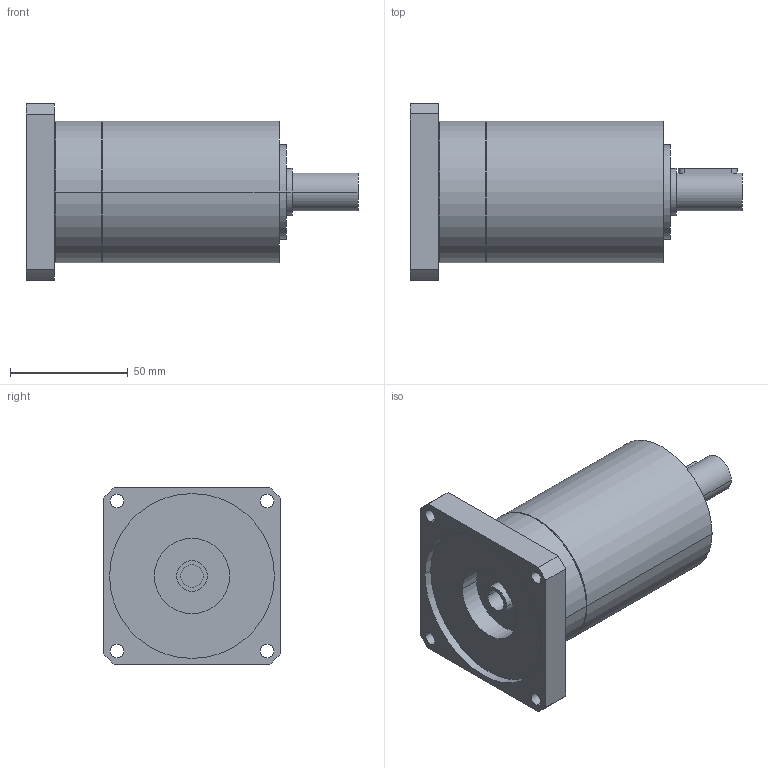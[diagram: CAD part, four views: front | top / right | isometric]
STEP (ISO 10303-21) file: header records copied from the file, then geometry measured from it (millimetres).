
FILE_DESCRIPTION(('CoCreate Modeling STEP Export'),'2;1');
FILE_NAME('GPR75_ig-9-12-16-20-24-30-36_16_B14_9.52_P24.stp','2014-08-25T16:06:54',(''),(''),'CoCreate Modeling STEP processor for AP214 (Solid Model)','CoCreate Modeling 16.00C 25-Feb-2009 (C) Parametric Technology GmbH','');
FILE_SCHEMA(('AUTOMOTIVE_DESIGN { 1 0 10303 214 1 1 1 1 }'));
Length unit declared in the file: millimetre
Products named in the file (2): GPR75_ig-9-12-16-20-24-30-36_16_B14_9.52_P24
Assembly tree (1 placements, depth 2):
  GPR75_ig-9-12-16-20-24-30-36_16_B14_9.52_P24
    GPR75_ig-9-12-16-20-24-30-36_16_B14_9.52_P24
Bounding box: 141 x 75 x 75 mm (x, y, z)
Volume: 323878 mm3; surface area: 42570.2 mm2
Topology: 1 solids, 1 shells, 73 faces, 196 edges, 138 vertices
Faces by surface type: cylinder 44, plane 23, cone 6
Entity records: 2014 total; most frequent: ORIENTED_EDGE 388, CARTESIAN_POINT 372, DIRECTION 272, EDGE_CURVE 194, VERTEX_POINT 138, AXIS2_PLACEMENT_3D 102, EDGE_LOOP 96, FACE_OUTER_BOUND 73
